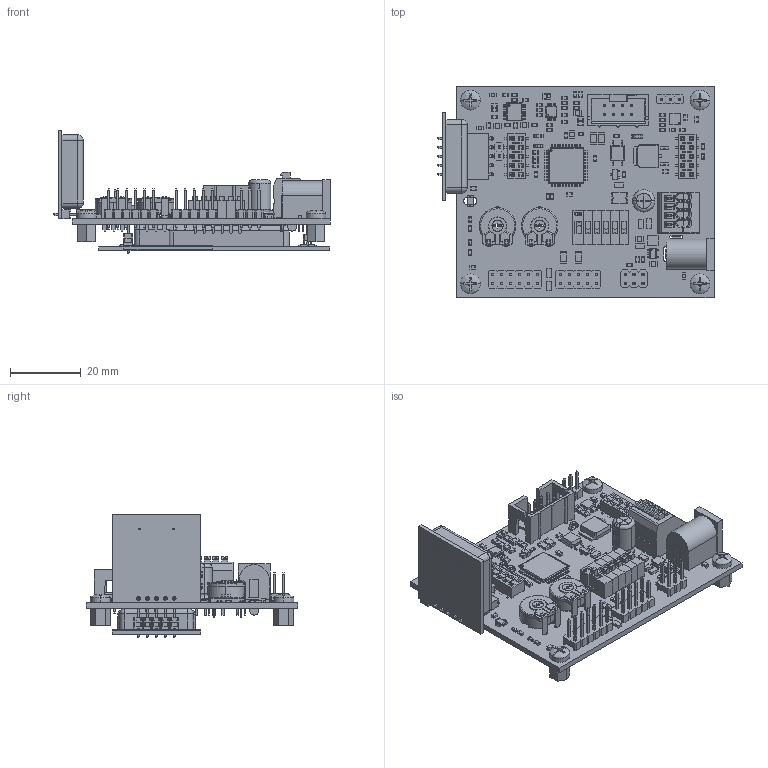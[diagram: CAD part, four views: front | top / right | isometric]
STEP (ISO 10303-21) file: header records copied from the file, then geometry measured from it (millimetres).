
FILE_DESCRIPTION(('Open CASCADE Model'),'2;1');
FILE_NAME('Open CASCADE Shape Model','2014-10-27T14:52:29',('Author'),( 'Open CASCADE'),'Open CASCADE STEP processor 6.5','Open CASCADE 6.5' ,'Unknown');
FILE_SCHEMA(('AUTOMOTIVE_DESIGN { 1 0 10303 214 1 1 1 1 }'));
Length unit declared in the file: millimetre
Products named in the file (449): PCB; Board; X6; pin_header_awl254-dg-g10d; C401; 861388032; Extruded; 861388160; C400; C313; X5; dc_connector[4840.2201]; SW; DIPSWITCH_6p_2.54_blue; J1; pin_header_aw140-eg-g03b; C306; C304; X2b; Samtec-HLE-105-02-F-DV-BE-A; X2; Xp; pin_header_aw254-dg-g06d; X7; pin_header_awl254-dg-g12d; X1; female_header_1x5_90grad; X4; 250-404_2_14a; U500; SOP-4; U400; SW3dPS-44_pin_tqfp_ic_package; U302; TSSOP-14; U300; SW3dPS-MSOP8; U201; dfn-mf8; U202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
Assembly tree (668 placements, depth 4):
  PCB
    Board
    X6
      pin_header_awl254-dg-g10d
    C401
      861388032  x2
        Extruded
      861388160
        Extruded
    C400
      861388032  x2
        Extruded
      861388160
        Extruded
    C313
      861388032  x2
        Extruded
      861388160
        Extruded
    X5
      dc_connector[4840.2201]
    SW
      DIPSWITCH_6p_2.54_blue
      DIPSWITCH_6p_2.54_blue
      DIPSWITCH_6p_2.54_blue
      DIPSWITCH_6p_2.54_blue
      DIPSWITCH_6p_2.54_blue
      DIPSWITCH_6p_2.54_blue
      DIPSWITCH_6p_2.54_blue
      DIPSWITCH_6p_2.54_blue
      DIPSWITCH_6p_2.54_blue
      DIPSWITCH_6p_2.54_blue
      DIPSWITCH_6p_2.54_blue
      DIPSWITCH_6p_2.54_blue
      DIPSWITCH_6p_2.54_blue
      DIPSWITCH_6p_2.54_blue
      DIPSWITCH_6p_2.54_blue
      DIPSWITCH_6p_2.54_blue
      DIPSWITCH_6p_2.54_blue
      DIPSWITCH_6p_2.54_blue
      DIPSWITCH_6p_2.54_blue
      DIPSWITCH_6p_2.54_blue
      DIPSWITCH_6p_2.54_blue
      DIPSWITCH_6p_2.54_blue
      DIPSWITCH_6p_2.54_blue
      DIPSWITCH_6p_2.54_blue
    J1
      pin_header_aw140-eg-g03b
    C306
      861388032  x2
        Extruded
      861388160
        Extruded
    C304
      861388032  x2
        Extruded
      861388160
        Extruded
    X2b
      Samtec-HLE-105-02-F-DV-BE-A
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Bounding box: 78.24 x 60 x 34.89 mm (x, y, z)
Volume: 26672.9 mm3; surface area: 34189.7 mm2
Topology: 333 solids, 544 shells, 7182 faces, 18327 edges, 12127 vertices
Faces by surface type: plane 5641, cylinder 1020, bspline 295, torus 132, sphere 56, cone 38
Full cylindrical faces by diameter (mm): 0.457 x6, 0.787 x2, 0.991 x10, 1 x66, 1.1 x4, 1.3 x6, 1.778 x4, 3.5 x4, 4 x2
Entity records: 378891 total; most frequent: CARTESIAN_POINT 93913, DIRECTION 42527, LINE 28368, VECTOR 28368, ORIENTED_EDGE 24692, PCURVE 24692, DEFINITIONAL_REPRESENTATION 24692, EDGE_CURVE 12982
